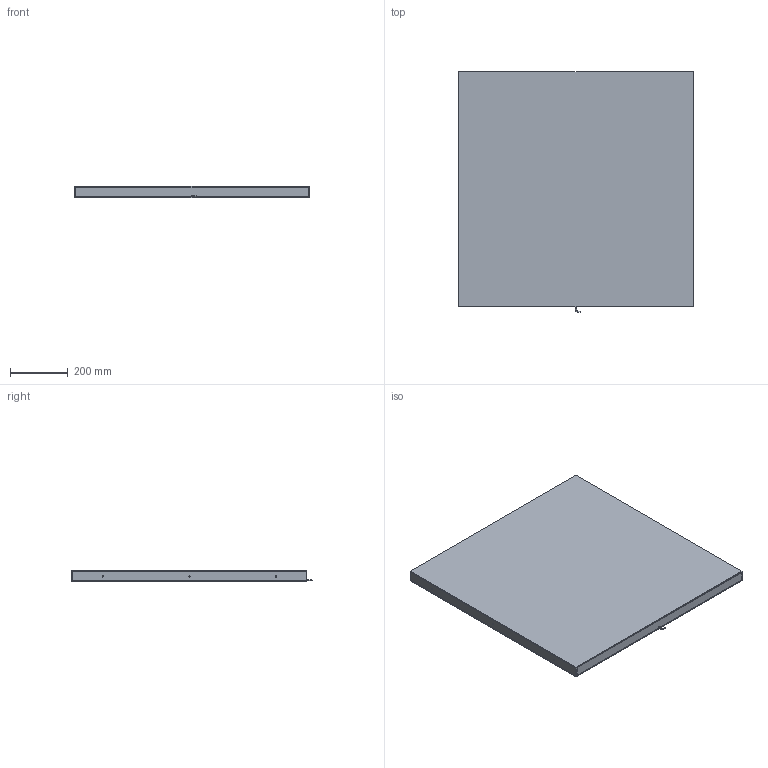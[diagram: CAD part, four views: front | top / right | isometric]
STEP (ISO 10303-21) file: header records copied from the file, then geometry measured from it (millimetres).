
FILE_DESCRIPTION (( 'STEP AP203' ), '1' );
FILE_NAME ('CRT-FLD800800-¼òÒ×3DÍ¼.STEP', '2021-11-23T08:08:50', ( 'Admin' ), ( '' ), 'SwSTEP 2.0', 'SolidWorks 2018', '' );
FILE_SCHEMA (( 'CONFIG_CONTROL_DESIGN' ));
Length unit declared in the file: millimetre
Products named in the file (1): CRT-FLD800800-潠眢3D芞
Bounding box: 814 x 831.75 x 41 mm (x, y, z)
Surface area: 1457237.1 mm2 (no closed solid volume)
Topology: 0 solids, 7 shells, 51 faces, 153 edges, 106 vertices
Faces by surface type: plane 32, cylinder 17, bspline 2
Entity records: 1816 total; most frequent: CARTESIAN_POINT 397, DIRECTION 282, ORIENTED_EDGE 225, EDGE_CURVE 153, LINE 116, VECTOR 116, VERTEX_POINT 106, AXIS2_PLACEMENT_3D 83
